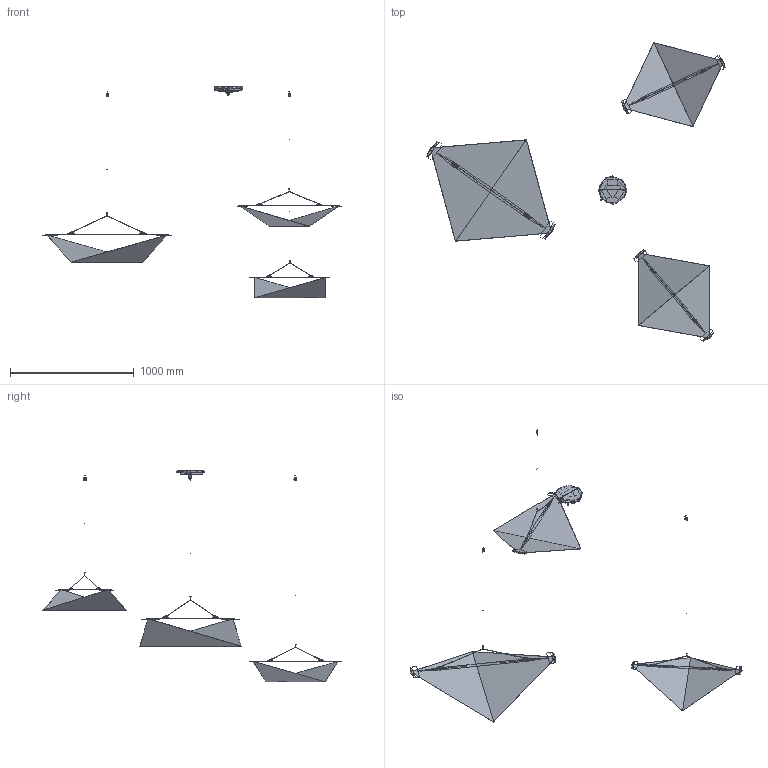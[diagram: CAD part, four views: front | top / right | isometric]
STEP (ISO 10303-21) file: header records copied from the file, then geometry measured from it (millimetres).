
FILE_DESCRIPTION(/* description */ (''),/* implementation_level */ '2;1');
FILE_NAME(/* name */ 'Multi Canopy, 3 pcs',/* time_stamp */ '2023-05-25T14:16:51+02:00',/* author */ (''),/* organization */ (''),/* preprocessor_version */ 'ST-DEVELOPER v16.5',/* originating_system */ 'Rhino 7.29',/* authorisation */ '');
FILE_SCHEMA (('CONFIG_CONTROL_DESIGN'));
Products named in the file (18): Document; ST4X16 01; M4X4_SET_SCREW 01; WIRE_CLIP_TOP 01; WIRE_CLIP 01; CANOPY_US_BRACKET_B; TOOTH_WASHER_M4; GROUND_WIRE; M4X5PM; CANOPY_US_B; RUBBER_PLUG; CANOPY_SCREW_M4; M4X6_SET_SCREW; CABLE_SOCKET_SCREW_3; M20_TEETH_WASHER; M20X1_5NUT; M6_SET_SCREW1; LED_DRIVER_CE
Assembly tree (34 placements, depth 2):
  Document
    ST4X16 01  x3
    M4X4_SET_SCREW 01  x6
    WIRE_CLIP_TOP 01  x3
    WIRE_CLIP 01  x3
    CANOPY_US_BRACKET_B
    TOOTH_WASHER_M4
    GROUND_WIRE
    M4X5PM
    CANOPY_US_B
    RUBBER_PLUG
    CANOPY_SCREW_M4  x3
    M4X6_SET_SCREW
    CABLE_SOCKET_SCREW_3
    M20_TEETH_WASHER
    M20X1_5NUT
    M6_SET_SCREW1  x3
    LED_DRIVER_CE  x3
Bounding box: 2419.71 x 2419.78 x 1714.85 mm (x, y, z)
Volume: 2934586.3 mm3; surface area: 9112370.8 mm2
Topology: 81 solids, 94 shells, 4658 faces, 12096 edges, 7688 vertices
Faces by surface type: bspline 2280, plane 1802, cylinder 576
Full cylindrical faces by diameter (mm): 4 x6
Entity records: 259171 total; most frequent: CARTESIAN_POINT 188386, ORIENTED_EDGE 21772, EDGE_CURVE 10905, B_SPLINE_CURVE_WITH_KNOTS 8740, VERTEX_POINT 6970, EDGE_LOOP 4479, ADVANCED_FACE 4193, FACE_OUTER_BOUND 4193
